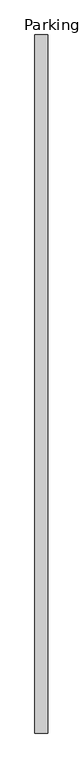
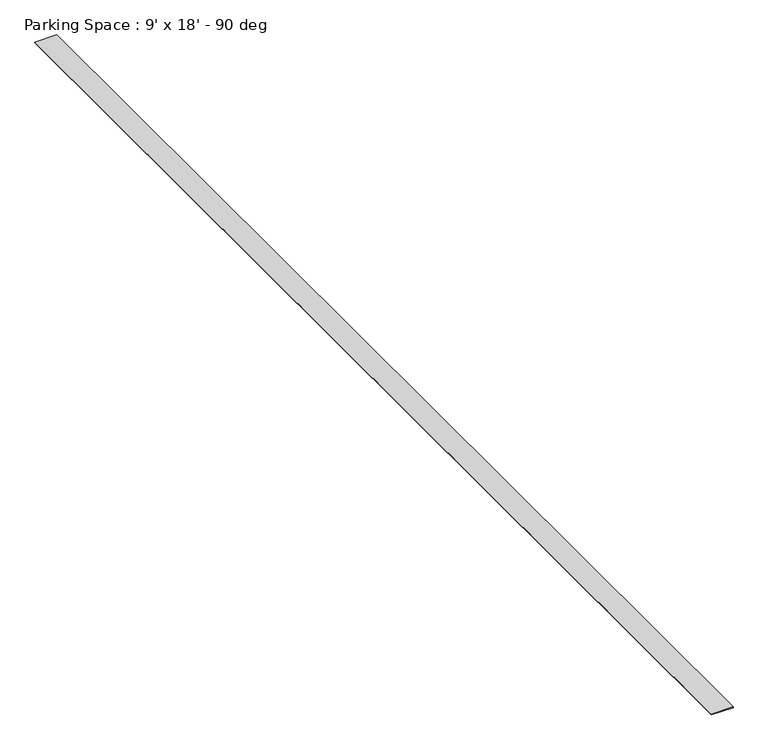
"""IFC4 building model written with IfcOpenShell, lengths in millimetres: proxy geometry, Parking Space : 9' x 18' - 90 deg."""

from ifc_helpers import new_model, si_unit, origin, origin_with_axes, place, context, project, spatial, polyline, outline, extrude, source, transform, mapped, element, save


def parking_space_9_x_18_90_deg_b8b21359(model_context):
    return source(origin(), model_context, "Body", "SweptSolid", [
        extrude(outline(polyline([(-50.8, 0.0), (50.8, 0.0), (50.8, -5486.4), (-50.8, -5486.4), (-50.8, 0.0)])), origin_with_axes(), (0.0, 0.0, 1.0), 3.175),
    ])


if __name__ == "__main__":
    model = new_model("IFC4")
    model_context = context("Model", 3, world=origin())
    ifc_project = project(units=[si_unit("LENGTHUNIT", "METRE", prefix="MILLI")], contexts=[model_context])
    site = spatial("IfcSite", under=ifc_project)
    building = spatial("IfcBuilding", under=site)
    placement = place(None, origin())
    parking_space_9_x_18_90_deg_shape = parking_space_9_x_18_90_deg_b8b21359(model_context)
    element("IfcBuildingElementProxy", 1, Name="Parking Space : 9' x 18' - 90 deg", ObjectType="Parking Space : 9' x 18' - 90 deg", at=placement, inside=building, context=model_context, shape_type="MappedRepresentation", body=[
        mapped(parking_space_9_x_18_90_deg_shape, transform((0.0, 0.0, 0.0), x_axis=(1.0, 0.0, 0.0), y_axis=(0.0, 1.0, 0.0), z_axis=(0.0, 0.0, 1.0))),
    ])
    save(model, "model.ifc")
